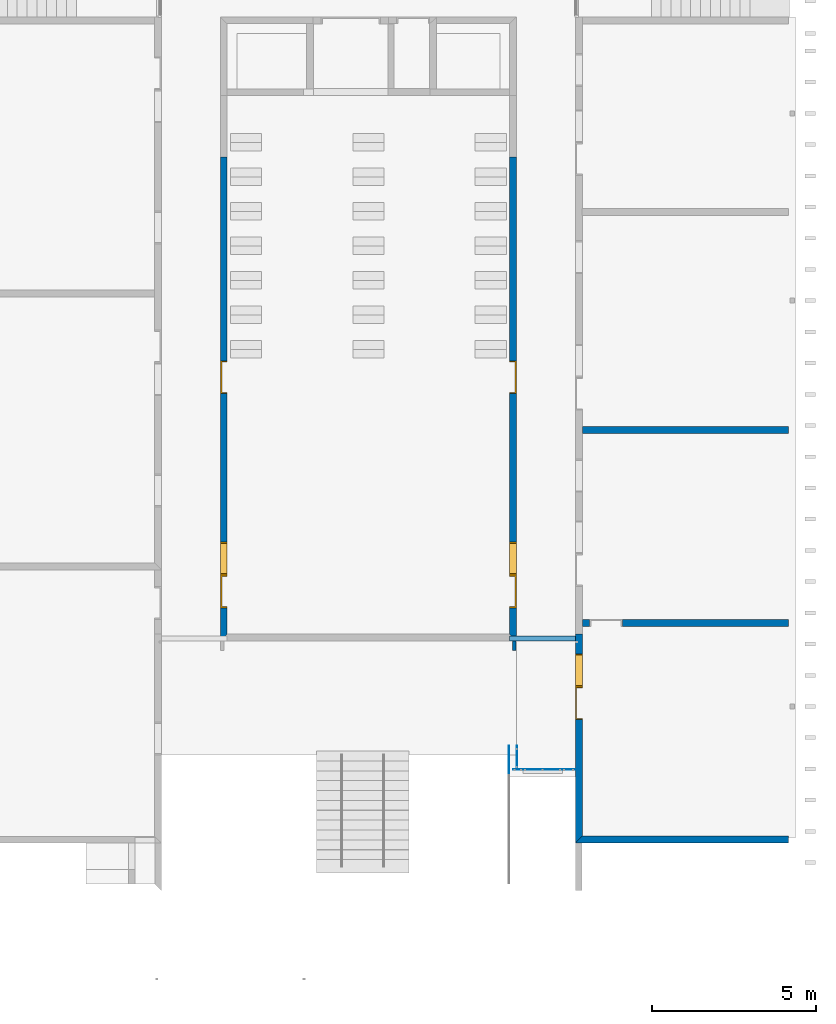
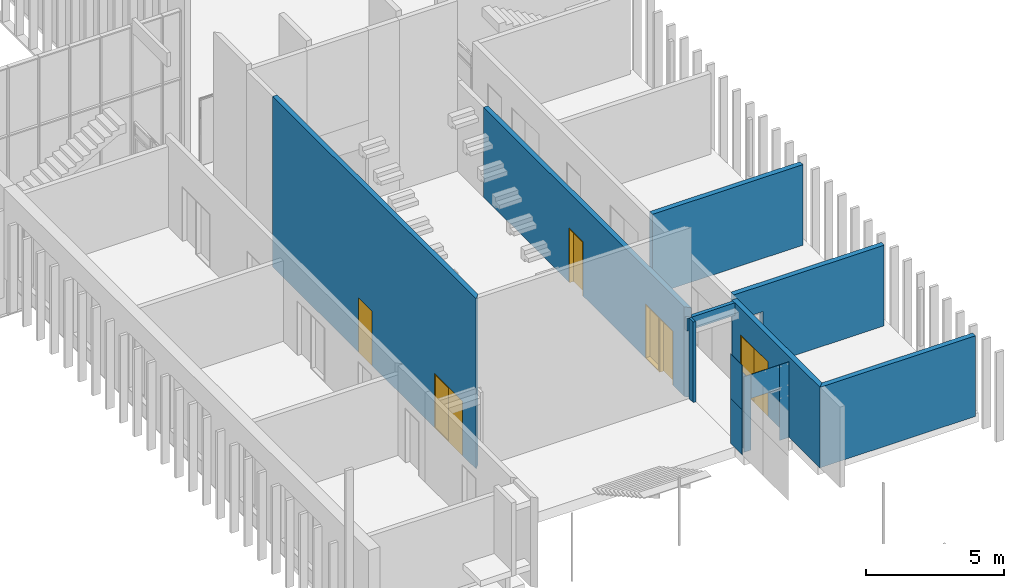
# One storey, part 12 of 62: 14 walls, 5 doors, 3 windows, 9 openings.
"""IFC2X3 building model written with IfcOpenShell, lengths in millimetres."""

from ifc_helpers import new_model, entity, si_unit, converted_unit, derived_unit, money_unit, direction, frame, origin_with_axes, origin_2d_with_axis, place, context, subcontext, project, spatial, polyline, rectangle, outline, extrude, open_shell, faceted_brep, surface_model, source, transform, mapped, material, layer, layer_set, layer_usage, type_object, element, fill, save


model = new_model("IFC2X3")

# Units and contexts
model_context = context("Model", 3, precision=0.01, world=origin_with_axes(), true_north=direction((0.0, 1.0)))
body_context = subcontext(model_context, "Body", "Model", "MODEL_VIEW")
ifc_project = project(units=[si_unit("LENGTHUNIT", "METRE", prefix="MILLI"), si_unit("AREAUNIT", "SQUARE_METRE"), si_unit("VOLUMEUNIT", "CUBIC_METRE"), converted_unit("PLANEANGLEUNIT", "DEGREE", entity("IfcPlaneAngleMeasure", 0.0174532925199), si_unit("PLANEANGLEUNIT", "RADIAN"), dimensions=[0, 0, 0, 0, 0, 0, 0]), si_unit("SOLIDANGLEUNIT", "STERADIAN"), money_unit("EUR"), converted_unit("TIMEUNIT", "Year", entity("IfcTimeMeasure", 31556926.0), si_unit("TIMEUNIT", "SECOND"), dimensions=[0, 0, 1, 0, 0, 0, 0]), si_unit("MASSUNIT", "GRAM", prefix="KILO"), si_unit("THERMODYNAMICTEMPERATUREUNIT", "DEGREE_CELSIUS"), si_unit("LUMINOUSINTENSITYUNIT", "LUMEN"), si_unit("ENERGYUNIT", "JOULE", prefix="MEGA"), derived_unit("THERMALCONDUCTANCEUNIT", [(si_unit("POWERUNIT", "WATT"), 1), (si_unit("LENGTHUNIT", "METRE"), -1), (si_unit("THERMODYNAMICTEMPERATUREUNIT", "KELVIN"), -1)]), derived_unit("SPECIFICHEATCAPACITYUNIT", [(si_unit("ENERGYUNIT", "JOULE"), 1), (si_unit("MASSUNIT", "GRAM", prefix="KILO"), -1), (si_unit("THERMODYNAMICTEMPERATUREUNIT", "KELVIN"), -1)]), derived_unit("MASSDENSITYUNIT", [(si_unit("MASSUNIT", "GRAM", prefix="KILO"), 1), (si_unit("VOLUMEUNIT", "CUBIC_METRE"), -1)])], contexts=[model_context])

# Site, building, storey
site_placement = place(None, origin_with_axes())
site = spatial("IfcSite", under=ifc_project, at=site_placement, Name="Puškini 31, Narva", CompositionType="ELEMENT")
building_placement = place(site_placement, origin_with_axes())
building = spatial("IfcBuilding", under=site, at=building_placement, Name="Narva Riigigümnaasium", CompositionType="ELEMENT")
storey_placement = place(building_placement, frame((0.0, 0.0, 660.0), z_axis=(0.0, 0.0, 1.0), x_axis=(1.0, 0.0, 0.0)))
storey = spatial("IfcBuildingStorey", under=building, at=storey_placement, Name="2.korrus +0.66", CompositionType="ELEMENT", Elevation=660.0)

# Wall, openings, window, doors
ifc_material_1 = material(Name="Betoon element")
ifc_layer_1 = layer(ifc_material_1, 200.0, ventilated="UNKNOWN")
ifc_layer_set_1 = layer_set([ifc_layer_1], Name="G-SS-01")
ifc_layer_usage_1 = layer_usage(ifc_layer_set_1, "AXIS2", "POSITIVE", 0.0)
wall_type_1 = type_object("IfcWallType", Name="G-SS-01 200", PredefinedType="NOTDEFINED")
wall_1_placement = place(storey_placement, frame((36699.9999995, 217018.932377, 0.0), z_axis=(0.0, 0.0, 1.0), x_axis=(0.0, -1.0, 0.0)))
wall_1 = element("IfcWallStandardCase", 1, at=wall_1_placement, inside=storey, type_object=wall_type_1, material=ifc_layer_usage_1, Name="Sisesein", context=body_context, shape_type="SweptSolid", body=[
    extrude(outline(polyline([(0.0, 0.0), (14718.9323644, 0.0), (14518.9323644, 200.0), (0.0, 200.0), (0.0, 0.0)])), origin_with_axes(), (0.0, 0.0, 1.0), 7520.0),
])
opening_1_placement = place(wall_1_placement, frame((12218.932385, 0.0, 0.0), z_axis=(0.0, 0.0, 1.0), x_axis=(1.0, 0.0, 0.0)))
opening_1 = element("IfcOpeningElement", 2, at=opening_1_placement, cuts=wall_1, Name="G-SA-2", context=body_context, shape_type="SweptSolid", body=[
    extrude(rectangle(XDim=1000.0, YDim=2400.0, at=origin_2d_with_axis()), frame((0.0, 200.0, 1200.0), z_axis=(0.0, 1.0, 0.0), x_axis=(1.0, 0.0, 0.0)), (0.0, 0.0, -1.0), 600.0),
])
opening_2_placement = place(wall_1_placement, frame((6698.93238558, 0.0, 0.0), z_axis=(0.0, 0.0, 1.0), x_axis=(1.0, 0.0, 0.0)))
opening_2 = element("IfcOpeningElement", 3, at=opening_2_placement, cuts=wall_1, Name="G-SU-083", context=body_context, shape_type="SweptSolid", body=[
    extrude(rectangle(XDim=1000.0, YDim=2400.0, at=origin_2d_with_axis()), frame((0.0, 200.0, 1200.0), z_axis=(0.0, -1.0, 0.0), x_axis=(-1.0, 0.0, 0.0)), (0.0, 0.0, 1.0), 600.0),
])
opening_3_placement = place(wall_1_placement, frame((13218.932385, 0.0, 0.0), z_axis=(0.0, 0.0, 1.0), x_axis=(1.0, 0.0, 0.0)))
opening_3 = element("IfcOpeningElement", 4, at=opening_3_placement, cuts=wall_1, Name="G-SU-082", context=body_context, shape_type="SweptSolid", body=[
    extrude(rectangle(XDim=1000.0, YDim=2400.0, at=origin_2d_with_axis()), frame((0.0, 200.0, 1200.0), z_axis=(0.0, 1.0, 0.0), x_axis=(1.0, 0.0, 0.0)), (0.0, 0.0, -1.0), 600.0),
])
window_style_1 = type_object("IfcWindowStyle", Name="Window 23", ConstructionType="NOTDEFINED", OperationType="SINGLE_PANEL", ParameterTakesPrecedence=False, Sizeable=False)
shared_shape_1 = source(origin_with_axes(), body_context, "Body", "SurfaceModel", [
    faceted_brep([(460.0, -200.0, 2360.0), (500.0, -200.0, 2360.0), (500.0, 0.0, 2360.0), (460.0, 0.0, 2360.0), (460.0, -200.0, 40.0), (500.0, -200.0, 40.0), (500.0, 0.0, 40.0), (460.0, 0.0, 40.0)], [[[0, 1, 2, 3]], [[0, 4, 5, 1]], [[1, 5, 6, 2]], [[3, 2, 6, 7]], [[4, 0, 3, 7]], [[5, 4, 7, 6]]]),
    faceted_brep([(-460.0, -200.0, 40.0), (-500.0, -200.0, 40.0), (-500.0, 0.0, 40.0), (-460.0, 0.0, 40.0), (-460.0, -200.0, 2360.0), (-500.0, -200.0, 2360.0), (-500.0, 0.0, 2360.0), (-460.0, 0.0, 2360.0)], [[[0, 1, 2, 3]], [[0, 4, 5, 1]], [[1, 5, 6, 2]], [[3, 2, 6, 7]], [[4, 0, 3, 7]], [[5, 4, 7, 6]]]),
    faceted_brep([(460.0, -200.0, 40.0), (500.0, -200.0, 40.0), (500.0, 0.0, 40.0), (460.0, 0.0, 40.0), (-460.0, -200.0, 40.0), (-500.0, -200.0, 40.0), (-500.0, -200.0, 0.0), (500.0, -200.0, 0.0), (500.0, 0.0, 0.0), (-500.0, 0.0, 0.0), (-500.0, 0.0, 40.0), (-460.0, 0.0, 40.0)], [[[0, 1, 2, 3]], [[0, 4, 5, 6, 7, 1]], [[1, 7, 8, 2]], [[3, 2, 8, 9, 10, 11]], [[4, 0, 3, 11]], [[5, 4, 11, 10]], [[6, 5, 10, 9]], [[7, 6, 9, 8]]]),
    faceted_brep([(-460.0, -200.0, 2360.0), (-500.0, -200.0, 2360.0), (-500.0, 0.0, 2360.0), (-460.0, 0.0, 2360.0), (460.0, -200.0, 2360.0), (500.0, -200.0, 2360.0), (500.0, -200.0, 2400.0), (-500.0, -200.0, 2400.0), (-500.0, 0.0, 2400.0), (500.0, 0.0, 2400.0), (500.0, 0.0, 2360.0), (460.0, 0.0, 2360.0)], [[[0, 1, 2, 3]], [[0, 4, 5, 6, 7, 1]], [[1, 7, 8, 2]], [[3, 2, 8, 9, 10, 11]], [[4, 0, 3, 11]], [[5, 4, 11, 10]], [[6, 5, 10, 9]], [[7, 6, 9, 8]]]),
    surface_model("IfcShellBasedSurfaceModel", [(460.0, -35.0, 40.0), (460.0, -35.0, 2360.0), (-460.0, -35.0, 2360.0), (-460.0, -35.0, 40.0)], [open_shell([[[0, 1, 2, 3]]])]),
    surface_model("IfcShellBasedSurfaceModel", [(460.0, -15.0, 40.0), (-460.0, -15.0, 40.0), (-460.0, -15.0, 2360.0), (460.0, -15.0, 2360.0)], [open_shell([[[0, 1, 2, 3]]])]),
])
window_1_placement = place(opening_1_placement, frame((500.0, 0.0, 0.0), z_axis=(0.0, 0.0, 1.0), x_axis=(-1.0, 0.0, 0.0)))
window_1 = element("IfcWindow", 5, at=window_1_placement, inside=storey, type_object=window_style_1, Name="G-SA-2", ObjectType="WINDOW", OverallHeight=2400.0, OverallWidth=1000.0, context=body_context, shape_type="MappedRepresentation", body=[
    mapped(shared_shape_1, transform((500.0, 0.0, 0.0))),
])
fill(opening_1, window_1)
door_style_1 = type_object("IfcDoorStyle", Name="Door 23", ConstructionType="NOTDEFINED", OperationType="SINGLE_SWING_RIGHT", ParameterTakesPrecedence=False, Sizeable=False)
shared_shape_2 = source(origin_with_axes(), body_context, "Body", "Brep", [
    faceted_brep([(-500.0, 0.0, 0.0), (-460.0, 0.0, 0.0), (-460.0, -200.0, 0.0), (-500.0, -200.0, 0.0), (-500.0, 0.0, 2360.0), (-460.0, 0.0, 2360.0), (-460.0, -200.0, 2360.0), (-500.0, -200.0, 2360.0)], [[[0, 1, 2, 3]], [[0, 4, 5, 1]], [[1, 5, 6, 2]], [[3, 2, 6, 7]], [[4, 0, 3, 7]], [[5, 4, 7, 6]]]),
    faceted_brep([(500.0, 0.0, 0.0), (500.0, 0.0, 2360.0), (500.0, -200.0, 2360.0), (500.0, -200.0, 0.0), (460.0, 0.0, 0.0), (460.0, 0.0, 2360.0), (460.0, -200.0, 2360.0), (460.0, -200.0, 0.0)], [[[0, 1, 2, 3]], [[0, 4, 5, 1]], [[1, 5, 6, 2]], [[3, 2, 6, 7]], [[4, 0, 3, 7]], [[5, 4, 7, 6]]]),
    faceted_brep([(-500.0, 0.0, 2400.0), (-500.0, 0.0, 2360.0), (-500.0, -200.0, 2360.0), (-500.0, -200.0, 2400.0), (500.0, 0.0, 2400.0), (500.0, 0.0, 2360.0), (460.0, 0.0, 2360.0), (-460.0, 0.0, 2360.0), (-460.0, -200.0, 2360.0), (460.0, -200.0, 2360.0), (500.0, -200.0, 2360.0), (500.0, -200.0, 2400.0)], [[[0, 1, 2, 3]], [[0, 4, 5, 6, 7, 1]], [[1, 7, 8, 2]], [[3, 2, 8, 9, 10, 11]], [[4, 0, 3, 11]], [[5, 4, 11, 10]], [[6, 5, 10, 9]], [[7, 6, 9, 8]]]),
    faceted_brep([(460.0, 0.0, 0.0), (460.0, -40.0, 0.0), (-460.0, -40.0, 0.0), (-460.0, 0.0, 0.0), (460.0, 0.0, 2360.0), (460.0, -40.0, 2360.0), (-460.0, -40.0, 2360.0), (-460.0, 0.0, 2360.0)], [[[0, 1, 2, 3]], [[4, 5, 1, 0]], [[1, 5, 6, 2]], [[3, 2, 6, 7]], [[0, 3, 7, 4]], [[7, 6, 5, 4]]]),
])
door_1_placement = place(opening_2_placement, frame((500.0, 0.0, 0.0), z_axis=(0.0, 0.0, 1.0), x_axis=(-1.0, 0.0, 0.0)))
door_1 = element("IfcDoor", 6, at=door_1_placement, inside=storey, type_object=door_style_1, Name="G-SU-083", ObjectType="DOOR", OverallHeight=2400.0, OverallWidth=1000.0, context=body_context, shape_type="MappedRepresentation", body=[
    mapped(shared_shape_2, transform((500.0, 0.0, 0.0))),
])
fill(opening_2, door_1)
door_style_2 = type_object("IfcDoorStyle", Name="Door 23", ConstructionType="NOTDEFINED", OperationType="SINGLE_SWING_LEFT", ParameterTakesPrecedence=False, Sizeable=False)
shared_shape_3 = source(origin_with_axes(), body_context, "Body", "Brep", [
    faceted_brep([(500.0, 0.0, 0.0), (500.0, -200.0, 0.0), (460.0, -200.0, 0.0), (460.0, 0.0, 0.0), (500.0, 0.0, 2360.0), (500.0, -200.0, 2360.0), (460.0, -200.0, 2360.0), (460.0, 0.0, 2360.0)], [[[0, 1, 2, 3]], [[4, 5, 1, 0]], [[1, 5, 6, 2]], [[3, 2, 6, 7]], [[0, 3, 7, 4]], [[7, 6, 5, 4]]]),
    faceted_brep([(-500.0, 0.0, 0.0), (-500.0, -200.0, 0.0), (-500.0, -200.0, 2360.0), (-500.0, 0.0, 2360.0), (-460.0, 0.0, 0.0), (-460.0, -200.0, 0.0), (-460.0, -200.0, 2360.0), (-460.0, 0.0, 2360.0)], [[[0, 1, 2, 3]], [[4, 5, 1, 0]], [[1, 5, 6, 2]], [[3, 2, 6, 7]], [[0, 3, 7, 4]], [[7, 6, 5, 4]]]),
    faceted_brep([(500.0, 0.0, 2400.0), (500.0, -200.0, 2400.0), (500.0, -200.0, 2360.0), (500.0, 0.0, 2360.0), (-500.0, 0.0, 2400.0), (-500.0, -200.0, 2400.0), (-500.0, -200.0, 2360.0), (-460.0, -200.0, 2360.0), (460.0, -200.0, 2360.0), (460.0, 0.0, 2360.0), (-460.0, 0.0, 2360.0), (-500.0, 0.0, 2360.0)], [[[0, 1, 2, 3]], [[4, 5, 1, 0]], [[1, 5, 6, 7, 8, 2]], [[3, 2, 8, 9]], [[0, 3, 9, 10, 11, 4]], [[11, 6, 5, 4]], [[10, 7, 6, 11]], [[9, 8, 7, 10]]]),
    faceted_brep([(-460.0, 0.0, 0.0), (460.0, 0.0, 0.0), (460.0, -40.0, 0.0), (-460.0, -40.0, 0.0), (-460.0, 0.0, 2360.0), (460.0, 0.0, 2360.0), (460.0, -40.0, 2360.0), (-460.0, -40.0, 2360.0)], [[[0, 1, 2, 3]], [[0, 4, 5, 1]], [[1, 5, 6, 2]], [[3, 2, 6, 7]], [[4, 0, 3, 7]], [[5, 4, 7, 6]]]),
])
door_2_placement = place(opening_3_placement, frame((500.0, 0.0, 0.0), z_axis=(0.0, 0.0, 1.0), x_axis=(-1.0, 0.0, 0.0)))
door_2 = element("IfcDoor", 7, at=door_2_placement, inside=storey, type_object=door_style_2, Name="G-SU-082", ObjectType="DOOR", OverallHeight=2400.0, OverallWidth=1000.0, context=body_context, shape_type="MappedRepresentation", body=[
    mapped(shared_shape_3, transform((500.0, 0.0, 0.0))),
])
fill(opening_3, door_2)

ifc_layer_usage_2 = layer_usage(ifc_layer_set_1, "AXIS2", "NEGATIVE", 0.0)
wall_2_placement = place(storey_placement, frame((45700.0000001, 217018.932377, 0.0), z_axis=(0.0, 0.0, 1.0), x_axis=(0.0, -1.0, 0.0)))
wall_2 = element("IfcWallStandardCase", 8, at=wall_2_placement, inside=storey, type_object=wall_type_1, material=ifc_layer_usage_2, Name="Sisesein", context=body_context, shape_type="SweptSolid", body=[
    extrude(outline(polyline([(0.0, -200.0), (14518.9323645, -200.0), (14718.9323645, 0.0), (0.0, 0.0), (0.0, -200.0)])), origin_with_axes(), (0.0, 0.0, 1.0), 3960.0),
])
opening_4_placement = place(wall_2_placement, frame((12218.932385, 0.0, 0.0), z_axis=(0.0, 0.0, 1.0), x_axis=(1.0, 0.0, 0.0)))
opening_4 = element("IfcOpeningElement", 9, at=opening_4_placement, cuts=wall_2, Name="G-SA-2", context=body_context, shape_type="SweptSolid", body=[
    extrude(rectangle(XDim=1000.0, YDim=2400.0, at=origin_2d_with_axis()), frame((0.0, -200.0, 1200.0), z_axis=(0.0, -1.0, 0.0), x_axis=(-1.0, 0.0, 0.0)), (0.0, 0.0, -1.0), 600.0),
])
opening_5_placement = place(wall_2_placement, frame((6698.93238558, 0.0, 0.0), z_axis=(0.0, 0.0, 1.0), x_axis=(1.0, 0.0, 0.0)))
opening_5 = element("IfcOpeningElement", 10, at=opening_5_placement, cuts=wall_2, Name="G-SU-080", context=body_context, shape_type="SweptSolid", body=[
    extrude(rectangle(XDim=1000.0, YDim=2400.0, at=origin_2d_with_axis()), frame((0.0, -200.0, 1200.0), z_axis=(0.0, -1.0, 0.0), x_axis=(-1.0, 0.0, 0.0)), (0.0, 0.0, -1.0), 600.0),
])
opening_6_placement = place(wall_2_placement, frame((13218.932385, 0.0, 0.0), z_axis=(0.0, 0.0, 1.0), x_axis=(1.0, 0.0, 0.0)))
opening_6 = element("IfcOpeningElement", 11, at=opening_6_placement, cuts=wall_2, Name="G-SU-081", context=body_context, shape_type="SweptSolid", body=[
    extrude(rectangle(XDim=1000.0, YDim=2400.0, at=origin_2d_with_axis()), frame((0.0, -200.0, 1200.0), z_axis=(0.0, 1.0, 0.0), x_axis=(1.0, 0.0, 0.0)), (0.0, 0.0, 1.0), 600.0),
])
window_2_placement = place(opening_4_placement, frame((-500.0, 0.0, 0.0), z_axis=(0.0, 0.0, 1.0), x_axis=(1.0, 0.0, 0.0)))
window_2 = element("IfcWindow", 12, at=window_2_placement, inside=storey, type_object=window_style_1, Name="G-SA-2", ObjectType="WINDOW", OverallHeight=2400.0, OverallWidth=1000.0, context=body_context, shape_type="MappedRepresentation", body=[
    mapped(shared_shape_1, transform((500.0, 0.0, 0.0))),
])
fill(opening_4, window_2)
door_3_placement = place(opening_6_placement, frame((-500.0, 0.0, 0.0), z_axis=(0.0, 0.0, 1.0), x_axis=(1.0, 0.0, 0.0)))
door_3 = element("IfcDoor", 13, at=door_3_placement, inside=storey, type_object=door_style_1, Name="G-SU-081", ObjectType="DOOR", OverallHeight=2400.0, OverallWidth=1000.0, context=body_context, shape_type="MappedRepresentation", body=[
    mapped(shared_shape_2, transform((500.0, 0.0, 0.0))),
])
fill(opening_6, door_3)
door_4_placement = place(opening_5_placement, frame((-500.0, 0.0, 0.0), z_axis=(0.0, 0.0, 1.0), x_axis=(1.0, 0.0, 0.0)))
door_4 = element("IfcDoor", 14, at=door_4_placement, inside=storey, type_object=door_style_2, Name="G-SU-080", ObjectType="DOOR", OverallHeight=2400.0, OverallWidth=1000.0, context=body_context, shape_type="MappedRepresentation", body=[
    mapped(shared_shape_3, transform((500.0, 0.0, 0.0))),
])
fill(opening_5, door_4)

# Walls
ifc_material_2 = material(Name="siseviimistlus-seinad")
ifc_layer_2 = layer(ifc_material_2, 15.0, ventilated="UNKNOWN")
ifc_material_3 = material(Name="Kipsplaat")
ifc_layer_3 = layer(ifc_material_3, 12.5, ventilated="UNKNOWN")
ifc_layer_4 = layer(ifc_material_3, 12.0, ventilated="UNKNOWN")
ifc_material_4 = material(Name="Karkass")
ifc_layer_5 = layer(ifc_material_4, 66.0, ventilated="UNKNOWN")
ifc_layer_set_2 = layer_set([ifc_layer_2, ifc_layer_3, ifc_layer_4, ifc_layer_5], Name="G-SS-06")
ifc_layer_usage_3 = layer_usage(ifc_layer_set_2, "AXIS2", "NEGATIVE", 0.0)
wall_type_2 = type_object("IfcWallType", Name="G-SS-06 106", PredefinedType="NOTDEFINED")
wall_3_placement = place(storey_placement, frame((45694.0000001, 202300.000012, 0.0), z_axis=(0.0, 0.0, 1.0), x_axis=(0.0, -1.0, 0.0)))
element("IfcWallStandardCase", 15, at=wall_3_placement, inside=storey, type_object=wall_type_2, material=ifc_layer_usage_3, Name="Sisesein", context=body_context, shape_type="SweptSolid", body=[
    extrude(outline(polyline([(-7.1054273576e-10, -105.5), (301.999999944, -105.5), (301.999999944, 0.0), (0.0, 0.0), (-7.1054273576e-10, -105.5)])), origin_with_axes(), (0.0, 0.0, 1.0), 3555.0),
])
ifc_material_5 = material(Name="SKR-02_Kipsplaat")
ifc_layer_6 = layer(ifc_material_5, 12.5, ventilated="UNKNOWN")
ifc_material_6 = material(Name="SOJ-03_Soojustus - Mineraal Pehme")
ifc_layer_7 = layer(ifc_material_6, 100.0, ventilated="UNKNOWN")
ifc_layer_set_3 = layer_set([ifc_layer_6, ifc_layer_6, ifc_layer_7, ifc_layer_6, ifc_layer_6], Name="G-SS-09")
ifc_layer_usage_4 = layer_usage(ifc_layer_set_3, "AXIS2", "POSITIVE", 0.0)
wall_type_3 = type_object("IfcWallType", Name="G-SS-09 150", PredefinedType="NOTDEFINED")
wall_4_placement = place(storey_placement, frame((45499.9999983, 202300.000012, 3005.0), z_axis=(0.0, 0.0, 1.0), x_axis=(1.0, 0.0, 0.0)))
element("IfcWallStandardCase", 16, at=wall_4_placement, inside=storey, type_object=wall_type_3, material=ifc_layer_usage_4, Name="Sisesein", context=body_context, shape_type="SweptSolid", body=[
    extrude(outline(polyline([(0.0, 0.0), (1999.99999526, 0.0), (1999.99999526, 150.0), (0.0, 150.0), (0.0, 0.0)])), origin_with_axes(), (0.0, 0.0, 1.0), 550.0),
])
ifc_material_7 = material(Name="Klaas")
ifc_layer_8 = layer(ifc_material_7, 12.0, ventilated="UNKNOWN")
ifc_layer_set_4 = layer_set([ifc_layer_8], Name="Klaas 12")
ifc_layer_usage_5 = layer_usage(ifc_layer_set_4, "AXIS2", "POSITIVE", -12.0)
wall_type_4 = type_object("IfcWallType", Name="Klaas 12", PredefinedType="NOTDEFINED")
wall_5_placement = place(storey_placement, frame((45724.0, 199106.971327, 0.0), z_axis=(0.0, 0.0, 1.0), x_axis=(0.0, -1.0, 0.0)))
element("IfcWallStandardCase", 17, at=wall_5_placement, inside=storey, type_object=wall_type_4, material=ifc_layer_usage_5, Name="Sisesein", context=body_context, shape_type="SweptSolid", body=[
    extrude(outline(polyline([(0.0, -12.0), (718.0, -12.0), (718.0, 0.0), (0.0, 0.0), (0.0, -12.0)])), origin_with_axes(), (0.0, 0.0, 1.0), 3339.53250462),
])
for number, where, z_axis, x_axis in (
    (18, (45487.9999983, 199106.971327, 1.0), (0.0, 0.0, 1.0), (0.0, -1.0, 0.0)),
    (19, (45487.9999983, 199106.971327, 1982.0), (0.0, 0.0, 1.0), (0.0, -1.0, 0.0)),
):
    element("IfcWallStandardCase", number, at=place(storey_placement, frame(where, z_axis=z_axis, x_axis=x_axis)), inside=storey, type_object=wall_type_4, material=ifc_layer_usage_5, Name="Sisesein", context=body_context, shape_type="SweptSolid", body=[
        extrude(outline(polyline([(0.0, -12.0), (845.0, -12.0), (845.0, 0.0), (0.0, 0.0), (0.0, -12.0)])), origin_with_axes(), (0.0, 0.0, 1.0), 1977.0),
    ])
wall_6_placement = place(storey_placement, frame((47495.0, 198372.0, 0.0), z_axis=(0.0, 0.0, 1.0), x_axis=(-1.0, 0.0, 0.0)))
element("IfcWallStandardCase", 20, at=wall_6_placement, inside=storey, type_object=wall_type_4, material=ifc_layer_usage_5, Name="Sisesein", context=body_context, shape_type="SweptSolid", body=[
    extrude(outline(polyline([(0.0, -12.0), (395.0, -12.0), (395.0, 0.0), (0.0, 0.0), (0.0, -12.0)])), origin_with_axes(), (0.0, 0.0, 1.0), 3339.53250462),
])
wall_7_placement = place(storey_placement, frame((45900.0, 198372.0, 0.0), z_axis=(0.0, 0.0, 1.0), x_axis=(-1.0, 0.0, 0.0)))
element("IfcWallStandardCase", 21, at=wall_7_placement, inside=storey, type_object=wall_type_4, material=ifc_layer_usage_5, Name="Sisesein", context=body_context, shape_type="SweptSolid", body=[
    extrude(outline(polyline([(0.0, -12.0), (295.000000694, -12.0), (295.000000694, 0.0), (0.0, 0.0), (0.0, -12.0)])), origin_with_axes(), (0.0, 0.0, 1.0), 3339.53250462),
])
wall_8_placement = place(storey_placement, frame((47097.0, 198372.0, 2280.00001822), z_axis=(0.0, 0.0, 1.0), x_axis=(-1.0, 0.0, 0.0)))
element("IfcWallStandardCase", 22, at=wall_8_placement, inside=storey, type_object=wall_type_4, material=ifc_layer_usage_5, Name="Sisesein", context=body_context, shape_type="SweptSolid", body=[
    extrude(outline(polyline([(0.0, -12.0), (1190.0, -12.0), (1190.0, 0.0), (0.0, 0.0), (0.0, -12.0)])), origin_with_axes(), (0.0, 0.0, 1.0), 1059.5324864),
])

# Wall, openings, window, door
ifc_layer_9 = layer(ifc_material_2, 10.0, ventilated="UNKNOWN")
ifc_layer_set_5 = layer_set([ifc_layer_1, ifc_layer_9], Name="G-SS-01-02")
ifc_layer_usage_6 = layer_usage(ifc_layer_set_5, "AXIS2", "POSITIVE", 0.0)
wall_type_5 = type_object("IfcWallType", Name="G-SS-01-02 210", PredefinedType="NOTDEFINED")
wall_9_placement = place(storey_placement, frame((47499.9999936, 202510.000012, 0.0), z_axis=(0.0, 0.0, 1.0), x_axis=(0.0, -1.0, 0.0)))
wall_9 = element("IfcWallStandardCase", 23, at=wall_9_placement, inside=storey, type_object=wall_type_5, material=ifc_layer_usage_6, Name="Sisesein", context=body_context, shape_type="SweptSolid", body=[
    extrude(outline(polyline([(0.0, 0.0), (6360.00001798, 0.0), (6150.00001798, 210.0), (0.0, 210.0), (0.0, 0.0)])), origin_with_axes(), (0.0, 0.0, 1.0), 3555.0),
])
opening_7_placement = place(wall_9_placement, frame((1110.0, 0.0, 0.0), z_axis=(0.0, 0.0, 1.0), x_axis=(1.0, 0.0, 0.0)))
opening_7 = element("IfcOpeningElement", 24, at=opening_7_placement, cuts=wall_9, Name="G-SA-2", context=body_context, shape_type="SweptSolid", body=[
    extrude(rectangle(XDim=1000.0, YDim=2400.0, at=origin_2d_with_axis()), frame((0.0, 210.0, 1200.0), z_axis=(0.0, 1.0, 0.0), x_axis=(1.0, 0.0, 0.0)), (0.0, 0.0, -1.0), 630.0),
])
opening_8_placement = place(wall_9_placement, frame((2110.0, 0.0, 0.0), z_axis=(0.0, 0.0, 1.0), x_axis=(1.0, 0.0, 0.0)))
opening_8 = element("IfcOpeningElement", 25, at=opening_8_placement, cuts=wall_9, Name="G-SU-077", context=body_context, shape_type="SweptSolid", body=[
    extrude(rectangle(XDim=1000.0, YDim=2400.0, at=origin_2d_with_axis()), frame((0.0, 210.0, 1200.0), z_axis=(0.0, 1.0, 0.0), x_axis=(1.0, 0.0, 0.0)), (0.0, 0.0, -1.0), 630.0),
])
window_style_2 = type_object("IfcWindowStyle", Name="Window 23", ConstructionType="NOTDEFINED", OperationType="SINGLE_PANEL", ParameterTakesPrecedence=False, Sizeable=False)
shared_shape_4 = source(origin_with_axes(), body_context, "Body", "SurfaceModel", [
    faceted_brep([(460.0, -210.0, 2360.0), (500.0, -210.0, 2360.0), (500.0, 0.0, 2360.0), (460.0, 0.0, 2360.0), (460.0, -210.0, 40.0), (500.0, -210.0, 40.0), (500.0, 0.0, 40.0), (460.0, 0.0, 40.0)], [[[0, 1, 2, 3]], [[0, 4, 5, 1]], [[1, 5, 6, 2]], [[3, 2, 6, 7]], [[4, 0, 3, 7]], [[5, 4, 7, 6]]]),
    faceted_brep([(-460.0, -210.0, 40.0), (-500.0, -210.0, 40.0), (-500.0, 0.0, 40.0), (-460.0, 0.0, 40.0), (-460.0, -210.0, 2360.0), (-500.0, -210.0, 2360.0), (-500.0, 0.0, 2360.0), (-460.0, 0.0, 2360.0)], [[[0, 1, 2, 3]], [[0, 4, 5, 1]], [[1, 5, 6, 2]], [[3, 2, 6, 7]], [[4, 0, 3, 7]], [[5, 4, 7, 6]]]),
    faceted_brep([(460.0, -210.0, 40.0), (500.0, -210.0, 40.0), (500.0, 0.0, 40.0), (460.0, 0.0, 40.0), (-460.0, -210.0, 40.0), (-500.0, -210.0, 40.0), (-500.0, -210.0, 0.0), (500.0, -210.0, 0.0), (500.0, 0.0, 0.0), (-500.0, 0.0, 0.0), (-500.0, 0.0, 40.0), (-460.0, 0.0, 40.0)], [[[0, 1, 2, 3]], [[0, 4, 5, 6, 7, 1]], [[1, 7, 8, 2]], [[3, 2, 8, 9, 10, 11]], [[4, 0, 3, 11]], [[5, 4, 11, 10]], [[6, 5, 10, 9]], [[7, 6, 9, 8]]]),
    faceted_brep([(-460.0, -210.0, 2360.0), (-500.0, -210.0, 2360.0), (-500.0, 0.0, 2360.0), (-460.0, 0.0, 2360.0), (460.0, -210.0, 2360.0), (500.0, -210.0, 2360.0), (500.0, -210.0, 2400.0), (-500.0, -210.0, 2400.0), (-500.0, 0.0, 2400.0), (500.0, 0.0, 2400.0), (500.0, 0.0, 2360.0), (460.0, 0.0, 2360.0)], [[[0, 1, 2, 3]], [[0, 4, 5, 6, 7, 1]], [[1, 7, 8, 2]], [[3, 2, 8, 9, 10, 11]], [[4, 0, 3, 11]], [[5, 4, 11, 10]], [[6, 5, 10, 9]], [[7, 6, 9, 8]]]),
    surface_model("IfcShellBasedSurfaceModel", [(460.0, -35.0, 40.0), (460.0, -35.0, 2360.0), (-460.0, -35.0, 2360.0), (-460.0, -35.0, 40.0)], [open_shell([[[0, 1, 2, 3]]])]),
    surface_model("IfcShellBasedSurfaceModel", [(460.0, -15.0, 40.0), (-460.0, -15.0, 40.0), (-460.0, -15.0, 2360.0), (460.0, -15.0, 2360.0)], [open_shell([[[0, 1, 2, 3]]])]),
])
window_3_placement = place(opening_7_placement, frame((500.0, 0.0, 0.0), z_axis=(0.0, 0.0, 1.0), x_axis=(-1.0, 0.0, 0.0)))
window_3 = element("IfcWindow", 26, at=window_3_placement, inside=storey, type_object=window_style_2, Name="G-SA-2", ObjectType="WINDOW", OverallHeight=2400.0, OverallWidth=1000.0, context=body_context, shape_type="MappedRepresentation", body=[
    mapped(shared_shape_4, transform((500.0, 0.0, 0.0))),
])
fill(opening_7, window_3)
shared_shape_5 = source(origin_with_axes(), body_context, "Body", "Brep", [
    faceted_brep([(500.0, 0.0, 0.0), (500.0, -210.0, 0.0), (460.0, -210.0, 0.0), (460.0, 0.0, 0.0), (500.0, 0.0, 2360.0), (500.0, -210.0, 2360.0), (460.0, -210.0, 2360.0), (460.0, 0.0, 2360.0)], [[[0, 1, 2, 3]], [[4, 5, 1, 0]], [[1, 5, 6, 2]], [[3, 2, 6, 7]], [[0, 3, 7, 4]], [[7, 6, 5, 4]]]),
    faceted_brep([(-500.0, 0.0, 0.0), (-500.0, -210.0, 0.0), (-500.0, -210.0, 2360.0), (-500.0, 0.0, 2360.0), (-460.0, 0.0, 0.0), (-460.0, -210.0, 0.0), (-460.0, -210.0, 2360.0), (-460.0, 0.0, 2360.0)], [[[0, 1, 2, 3]], [[4, 5, 1, 0]], [[1, 5, 6, 2]], [[3, 2, 6, 7]], [[0, 3, 7, 4]], [[7, 6, 5, 4]]]),
    faceted_brep([(500.0, 0.0, 2400.0), (500.0, -210.0, 2400.0), (500.0, -210.0, 2360.0), (500.0, 0.0, 2360.0), (-500.0, 0.0, 2400.0), (-500.0, -210.0, 2400.0), (-500.0, -210.0, 2360.0), (-460.0, -210.0, 2360.0), (460.0, -210.0, 2360.0), (460.0, 0.0, 2360.0), (-460.0, 0.0, 2360.0), (-500.0, 0.0, 2360.0)], [[[0, 1, 2, 3]], [[4, 5, 1, 0]], [[1, 5, 6, 7, 8, 2]], [[3, 2, 8, 9]], [[0, 3, 9, 10, 11, 4]], [[11, 6, 5, 4]], [[10, 7, 6, 11]], [[9, 8, 7, 10]]]),
    faceted_brep([(-460.0, 0.0, 0.0), (460.0, 0.0, 0.0), (460.0, -40.0, 0.0), (-460.0, -40.0, 0.0), (-460.0, 0.0, 2360.0), (460.0, 0.0, 2360.0), (460.0, -40.0, 2360.0), (-460.0, -40.0, 2360.0)], [[[0, 1, 2, 3]], [[0, 4, 5, 1]], [[1, 5, 6, 2]], [[3, 2, 6, 7]], [[4, 0, 3, 7]], [[5, 4, 7, 6]]]),
])
door_5_placement = place(opening_8_placement, frame((500.0, 0.0, 0.0), z_axis=(0.0, 0.0, 1.0), x_axis=(-1.0, 0.0, 0.0)))
door_5 = element("IfcDoor", 27, at=door_5_placement, inside=storey, type_object=door_style_2, Name="G-SU-077", ObjectType="DOOR", OverallHeight=2400.0, OverallWidth=1000.0, context=body_context, shape_type="MappedRepresentation", body=[
    mapped(shared_shape_5, transform((500.0, 0.0, 0.0))),
])
fill(opening_8, door_5)

# Wall, opening
wall_10_placement = place(storey_placement, frame((47499.9999908, 202739.999992, 0.0), z_axis=(0.0, 0.0, 1.0), x_axis=(1.0, 0.0, 0.0)))
wall_10 = element("IfcWallStandardCase", 28, at=wall_10_placement, inside=storey, type_object=wall_type_5, material=ifc_layer_usage_6, Name="Sisesein", context=body_context, shape_type="SweptSolid", body=[
    extrude(outline(polyline([(210.000002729, 0.0), (6489.99999517, 0.0), (6489.99999517, 210.0), (210.000002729, 210.0), (210.000002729, 0.0)])), origin_with_axes(), (0.0, 0.0, 1.0), 3560.0),
])
opening_9_placement = place(wall_10_placement, frame((930.000002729, 0.0, 0.0), z_axis=(0.0, 0.0, 1.0), x_axis=(1.0, 0.0, 0.0)))
element("IfcOpeningElement", 29, at=opening_9_placement, cuts=wall_10, Name="G-SU-076", context=body_context, shape_type="SweptSolid", body=[
    extrude(rectangle(XDim=1000.0, YDim=2400.0, at=origin_2d_with_axis()), frame((0.0, -210.0, 1200.0), z_axis=(0.0, -1.0, 0.0), x_axis=(-1.0, 0.0, 0.0)), (0.0, 0.0, -1.0), 630.0),
])

# Walls
wall_11_placement = place(storey_placement, frame((47499.9999908, 196149.999994, 0.0), z_axis=(0.0, 0.0, 1.0), x_axis=(1.0, 0.0, 0.0)))
element("IfcWallStandardCase", 30, at=wall_11_placement, inside=storey, type_object=wall_type_5, material=ifc_layer_usage_6, Name="Sisesein", context=body_context, shape_type="SweptSolid", body=[
    extrude(outline(polyline([(2.72928701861e-06, 0.0), (6489.99999517, 0.0), (6489.99999517, 210.0), (210.000002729, 210.0), (2.72928701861e-06, 0.0)])), origin_with_axes(), (0.0, 0.0, 1.0), 3555.0),
])
wall_12_placement = place(storey_placement, frame((47499.9999908, 208609.999991, 0.0), z_axis=(0.0, 0.0, 1.0), x_axis=(1.0, 0.0, 0.0)))
element("IfcWallStandardCase", 31, at=wall_12_placement, inside=storey, type_object=wall_type_5, material=ifc_layer_usage_6, Name="Sisesein", context=body_context, shape_type="SweptSolid", body=[
    extrude(outline(polyline([(210.000002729, 0.0), (6489.99999517, 0.0), (6489.99999517, 210.0), (210.000002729, 210.0), (210.000002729, 0.0)])), origin_with_axes(), (0.0, 0.0, 1.0), 3560.0),
])

save(model, "model.ifc")
